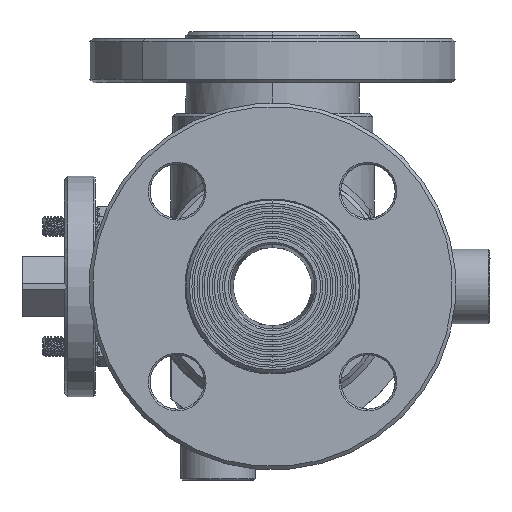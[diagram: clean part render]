
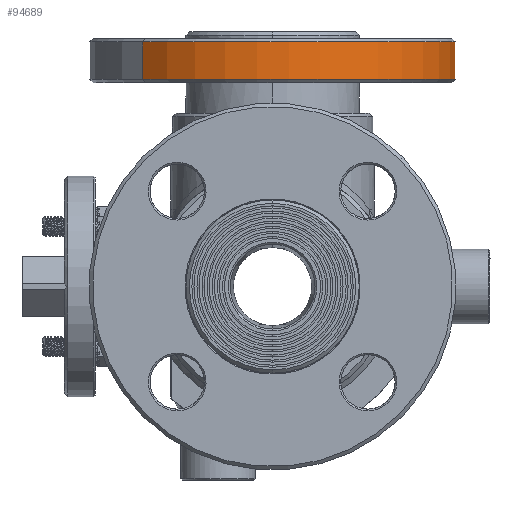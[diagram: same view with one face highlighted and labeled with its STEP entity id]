
A CAD part, left-side view. The second image highlights one B-rep face of the part: STEP entity #94689.
In plain terms, the highlighted cylindrical face has radius 54 mm (diameter 108 mm), a partial arc.
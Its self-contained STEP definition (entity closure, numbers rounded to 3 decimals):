
#19781=CARTESIAN_POINT('',(0.,0.,61.));
#19782=DIRECTION('',(0.,0.,1.));
#19783=DIRECTION('',(-0.707,0.707,0.));
#19784=AXIS2_PLACEMENT_3D('',#19781,#19782,#19783);
#19789=DIRECTION('',(0.,0.,1.));
#19790=VECTOR('',#19789,11.);
#19791=CARTESIAN_POINT('',(-38.184,38.184,
61.));
#19792=LINE('',#19791,#19790);
#19796=CARTESIAN_POINT('',(0.,0.,72.));
#19797=DIRECTION('',(0.,0.,1.));
#19798=DIRECTION('',(-0.707,0.707,0.));
#19799=AXIS2_PLACEMENT_3D('',#19796,#19797,#19798);
#19804=DIRECTION('',(0.,0.,1.));
#19805=VECTOR('',#19804,11.);
#19806=CARTESIAN_POINT('',(38.184,-38.184,
61.));
#19807=LINE('',#19806,#19805);
#76979=CARTESIAN_POINT('',(38.184,-38.184,
72.));
#76980=CARTESIAN_POINT('',(-38.184,38.184,
72.));
#76981=VERTEX_POINT('',#76979);
#76982=VERTEX_POINT('',#76980);
#76983=CARTESIAN_POINT('',(38.184,-38.184,
61.));
#76984=CARTESIAN_POINT('',(-38.184,38.184,
61.));
#76985=VERTEX_POINT('',#76983);
#76986=VERTEX_POINT('',#76984);
#94676=CARTESIAN_POINT('',(0.,0.,59.35));
#94677=DIRECTION('',(0.,0.,1.));
#94678=DIRECTION('',(0.707,-0.707,0.));
#94679=AXIS2_PLACEMENT_3D('',#94676,#94677,#94678);
#94680=CYLINDRICAL_SURFACE('',#94679,54.);
#94682=ORIENTED_EDGE('',*,*,#94681,.F.);
#94683=ORIENTED_EDGE('',*,*,#94671,.T.);
#94685=ORIENTED_EDGE('',*,*,#94684,.T.);
#94686=ORIENTED_EDGE('',*,*,#94667,.F.);
#94687=EDGE_LOOP('',(#94682,#94683,#94685,#94686));
#94688=FACE_OUTER_BOUND('',#94687,.F.);
#94689=ADVANCED_FACE('',(#94688),#94680,.T.);
#19785=CIRCLE('',#19784,54.);
#19800=CIRCLE('',#19799,54.);
#94667=EDGE_CURVE('',#76985,#76981,#19807,.T.);
#94671=EDGE_CURVE('',#76986,#76982,#19792,.T.);
#94681=EDGE_CURVE('',#76986,#76985,#19785,.T.);
#94684=EDGE_CURVE('',#76982,#76981,#19800,.T.);
